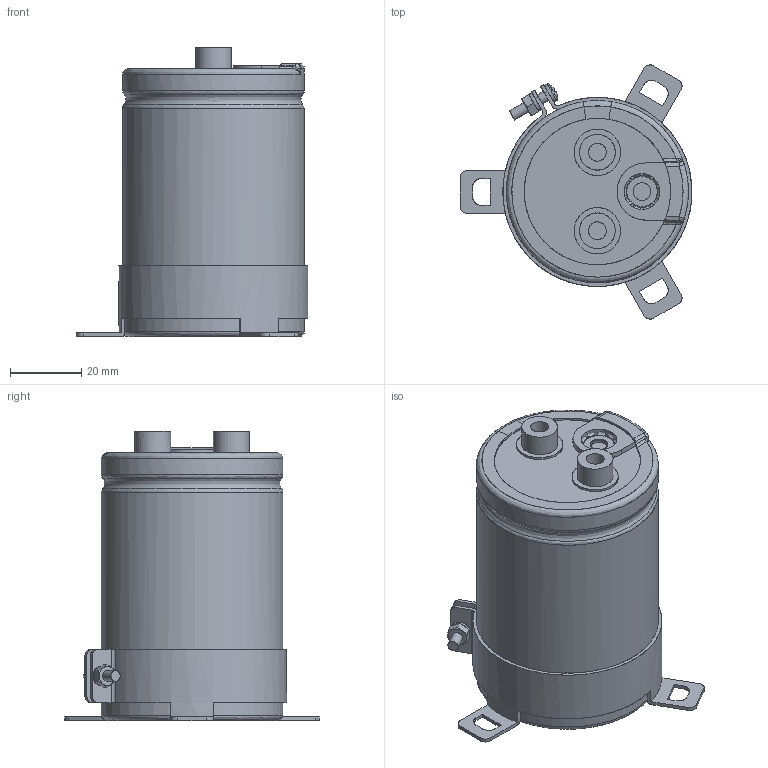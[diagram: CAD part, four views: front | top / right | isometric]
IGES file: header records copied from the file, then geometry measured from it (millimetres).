
Start section: JAMA-IS VERSION  1.0
Bounding box: 65 x 71.22 x 81 mm (x, y, z)
Surface area: 50518.1 mm2 (no closed solid volume)
Topology: 0 solids, 0 shells, 298 faces, 4625 edges, 4595 vertices
Faces by surface type: bspline 298
